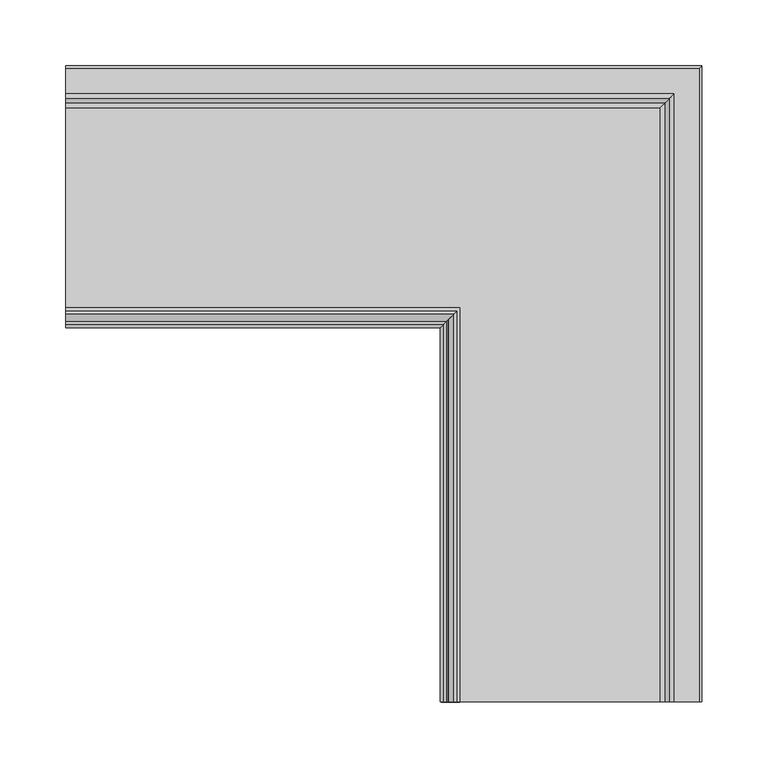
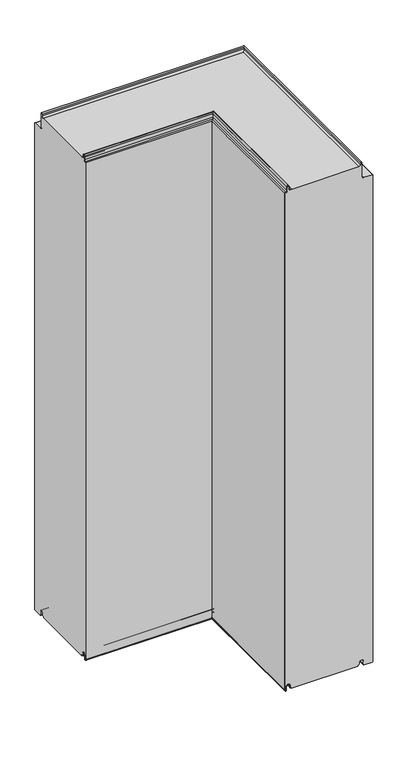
"""IFC4 building model written with IfcOpenShell, lengths in millimetres: plate geometry, Угловой модуль Fronttop : Угловой модуль Fronttop 200/1190."""

from ifc_helpers import new_model, si_unit, frame, origin, place, context, project, spatial, polyline, circle_curve, ellipse_curve, source, transform, mapped, element, save
from ifc_brep_helpers import plane_surface, cylinder_surface, revolved_surface, advanced_brep


def plate_2d9094d1(model_context):
    return source(origin(), model_context, "Body", "AdvancedBrep", [
        advanced_brep(
        [(-234.5, 15.0, 3.0), (-234.5, 13.0, 3.0), (-234.5, 12.0, 4.0), (-234.5, 12.0, 8.0), (-234.5, 3.0, 8.0), (-234.5, 3.0, -0.5), (-234.5, 1.0, -0.5), (-234.5, 1.0, 1185.0278643), (-234.5, 2.1111111, 1186.0216723), (-234.5, 6.0, 1189.5), (-234.5, 6.0, 1198.0), (-234.5, 9.0, 1198.0), (-234.5, 9.0, 1194.0), (-234.5, 13.0, 1190.0), (-234.5, 167.0, 1190.0), (-234.5, 171.0, 1194.0), (-234.5, 171.0, 1198.0), (-234.5, 174.0, 1198.0), (-234.5, 174.0, 1165.0), (-234.5, 178.0, 1161.0), (-234.5, 197.0, 1161.0), (-234.5, 199.0, 1159.0), (-234.5, 199.0, 0.0), (-234.5, 197.0, -2.0), (-234.5, 179.0, -2.0), (-234.5, 177.0, 0.0), (-234.5, 177.0, 8.0), (-234.5, 168.0, 8.0), (-234.5, 168.0, 4.0), (-234.5, 167.0, 3.0), (-234.5, 165.0, 3.0), (-234.5, 165.0, 0.0), (-234.5, 15.0, 0.0), (65.0, 15.0, 0.0), (65.0, 15.0, 3.0), (215.0, 165.0, 0.0), (215.0, -284.5, 0.0), (65.0, -284.5, 0.0), (215.0, 165.0, 3.0), (217.0, 167.0, 3.0), (217.0, -284.5, 3.0), (215.0, -284.5, 3.0), (218.0, 168.0, 4.0), (218.0, 168.0, 8.0), (227.0, 177.0, 8.0), (227.0, 177.0, 0.0), (229.0, 179.0, -2.0), (247.0, 197.0, -2.0), (247.0, -284.5, -2.0), (229.0, -284.5, -2.0), (249.0, 199.0, 0.0), (249.0, 199.0, 1159.0), (247.0, 197.0, 1161.0), (228.0, 178.0, 1161.0), (228.0, -284.5, 1161.0), (247.0, -284.5, 1161.0), (224.0, 174.0, 1165.0), (224.0, 174.0, 1198.0), (221.0, 171.0, 1198.0), (221.0, 171.0, 1194.0), (217.0, 167.0, 1190.0), (63.0, 13.0, 1190.0), (63.0, -284.5, 1190.0), (217.0, -284.5, 1190.0), (59.0, 9.0, 1194.0), (59.0, 9.0, 1198.0), (56.0, 6.0, 1198.0), (56.0, 6.0, 1189.5), (52.1111111, 2.1111111, 1186.021672), (51.0, 1.0, 1185.0278643), (51.0, 1.0, -0.5), (53.0, 3.0, -0.5), (53.0, 3.0, 8.0), (62.0, 12.0, 8.0), (62.0, 12.0, 4.0), (63.0, 13.0, 3.0), (65.0, -284.5, 3.0), (63.0, -284.5, 3.0), (218.0, -284.5, 4.0), (218.0, -284.5, 8.0), (227.0, -284.5, 8.0), (227.0, -284.5, 0.0), (249.0, -284.5, 0.0), (249.0, -284.5, 1159.0), (224.0, -284.5, 1165.0), (224.0, -284.5, 1198.0), (221.0, -284.5, 1198.0), (221.0, -284.5, 1194.0), (59.0, -284.5, 1194.0), (59.0, -284.5, 1198.0), (56.0, -284.5, 1198.0), (56.0, -284.5, 1189.5), (52.1111111, -284.5, 1186.021672), (51.0, -284.5, 1185.0278643), (51.0, -284.5, -0.5), (53.0, -284.5, -0.5), (53.0, -284.5, 8.0), (62.0, -284.5, 8.0), (62.0, -284.5, 4.0)],
        [
            (0, 1),
            (1, 2, circle_curve(frame((-234.5, 13.0, 4.0), z_axis=(-1.0, 0.0, 0.0), x_axis=(0.0, -1.0, 0.0)), 1.0)),
            (2, 3),
            (3, 4, circle_curve(frame((-234.5, 7.5, 8.0), z_axis=(1.0, 0.0, 0.0), x_axis=(0.0, -1.0, 0.0)), 4.5)),
            (4, 5),
            (5, 6, circle_curve(frame((-234.5, 2.0, -0.5), z_axis=(-1.0, 0.0, 0.0), x_axis=(0.0, -1.0, 0.0)), 1.0)),
            (6, 7),
            (7, 8, circle_curve(frame((-234.5, 2.0, 1185.0278643), z_axis=(-1.0, 0.0, 0.0), x_axis=(0.0, -1.0, 0.0)), 1.0)),
            (8, 9, circle_curve(frame((-234.5, 2.5, 1189.5), z_axis=(1.0, 0.0, 0.0), x_axis=(0.0, -1.0, 0.0)), 3.5)),
            (9, 10),
            (10, 11, circle_curve(frame((-234.5, 7.5, 1198.0), z_axis=(-1.0, 0.0, 0.0), x_axis=(0.0, -1.0, 0.0)), 1.5)),
            (11, 12),
            (12, 13, circle_curve(frame((-234.5, 13.0, 1194.0), z_axis=(1.0, 0.0, 0.0), x_axis=(0.0, -1.0, 0.0)), 4.0)),
            (13, 14),
            (14, 15, circle_curve(frame((-234.5, 167.0, 1194.0), z_axis=(1.0, 0.0, 0.0), x_axis=(0.0, -1.0, 0.0)), 4.0)),
            (15, 16),
            (16, 17, circle_curve(frame((-234.5, 172.5, 1198.0), z_axis=(-1.0, 0.0, 0.0), x_axis=(0.0, -1.0, 0.0)), 1.5)),
            (17, 18),
            (18, 19, circle_curve(frame((-234.5, 178.0, 1165.0), z_axis=(1.0, 0.0, 0.0), x_axis=(0.0, -1.0, 0.0)), 4.0)),
            (19, 20),
            (20, 21, circle_curve(frame((-234.5, 197.0, 1159.0), z_axis=(-1.0, 0.0, 0.0), x_axis=(0.0, -1.0, 0.0)), 2.0)),
            (21, 22),
            (22, 23, circle_curve(frame((-234.5, 197.0, 0.0), z_axis=(-1.0, 0.0, 0.0), x_axis=(0.0, -1.0, 0.0)), 2.0)),
            (23, 24),
            (24, 25, circle_curve(frame((-234.5, 179.0, 0.0), z_axis=(-1.0, 0.0, 0.0), x_axis=(0.0, -1.0, 0.0)), 2.0)),
            (25, 26),
            (26, 27, circle_curve(frame((-234.5, 172.5, 8.0), z_axis=(1.0, 0.0, 0.0), x_axis=(0.0, -1.0, 0.0)), 4.5)),
            (27, 28),
            (28, 29, circle_curve(frame((-234.5, 167.0, 4.0), z_axis=(-1.0, 0.0, 0.0), x_axis=(0.0, -1.0, 0.0)), 1.0)),
            (29, 30),
            (30, 31),
            (31, 32),
            (32, 0),
            (32, 33),
            (33, 34),
            (34, 0),
            (31, 35),
            (35, 36),
            (36, 37),
            (37, 33),
            (30, 38),
            (38, 35),
            (29, 39),
            (39, 40),
            (40, 41),
            (41, 38),
            (28, 42),
            (42, 39, ellipse_curve(frame((217.0, 167.0, 4.0), z_axis=(-0.7071067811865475, 0.7071067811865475, 0.0), x_axis=(-0.7071067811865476, -0.7071067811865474, 0.0)), 1.4142136, 1.0)),
            (27, 43),
            (43, 42),
            (26, 44),
            (44, 43, ellipse_curve(frame((222.5, 172.5, 8.0), z_axis=(0.7071067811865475, -0.7071067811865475, 0.0), x_axis=(0.7071067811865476, 0.7071067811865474, 0.0)), 6.363961, 4.5)),
            (25, 45),
            (45, 44),
            (24, 46),
            (46, 45, ellipse_curve(frame((229.0, 179.0, 0.0), z_axis=(-0.7071067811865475, 0.7071067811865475, 0.0), x_axis=(-0.7071067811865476, -0.7071067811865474, 0.0)), 2.8284271, 2.0)),
            (23, 47),
            (47, 48),
            (48, 49),
            (49, 46),
            (22, 50),
            (50, 47, ellipse_curve(frame((247.0, 197.0, 0.0), z_axis=(-0.7071067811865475, 0.7071067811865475, 0.0), x_axis=(-0.7071067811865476, -0.7071067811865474, 0.0)), 2.8284271, 2.0)),
            (21, 51),
            (51, 50),
            (20, 52),
            (52, 51, ellipse_curve(frame((247.0, 197.0, 1159.0), z_axis=(-0.7071067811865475, 0.7071067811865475, 0.0), x_axis=(-0.7071067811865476, -0.7071067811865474, 0.0)), 2.8284271, 2.0)),
            (19, 53),
            (53, 54),
            (54, 55),
            (55, 52),
            (18, 56),
            (56, 53, ellipse_curve(frame((228.0, 178.0, 1165.0), z_axis=(0.7071067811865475, -0.7071067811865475, 0.0), x_axis=(0.7071067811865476, 0.7071067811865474, 0.0)), 5.6568542, 4.0)),
            (17, 57),
            (57, 56),
            (16, 58),
            (58, 57, ellipse_curve(frame((222.5, 172.5, 1198.0), z_axis=(-0.7071067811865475, 0.7071067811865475, 0.0), x_axis=(-0.7071067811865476, -0.7071067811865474, 0.0)), 2.1213203, 1.5)),
            (15, 59),
            (59, 58),
            (14, 60),
            (60, 59, ellipse_curve(frame((217.0, 167.0, 1194.0), z_axis=(0.7071067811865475, -0.7071067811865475, 0.0), x_axis=(0.7071067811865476, 0.7071067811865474, 0.0)), 5.6568542, 4.0)),
            (13, 61),
            (61, 62),
            (62, 63),
            (63, 60),
            (12, 64),
            (64, 61, ellipse_curve(frame((63.0, 13.0, 1194.0), z_axis=(0.7071067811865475, -0.7071067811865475, 0.0), x_axis=(0.7071067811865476, 0.7071067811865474, 0.0)), 5.6568542, 4.0)),
            (11, 65),
            (65, 64),
            (10, 66),
            (66, 65, ellipse_curve(frame((57.5, 7.5, 1198.0), z_axis=(-0.7071067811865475, 0.7071067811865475, 0.0), x_axis=(-0.7071067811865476, -0.7071067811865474, 0.0)), 2.1213204, 1.5)),
            (9, 67),
            (67, 66),
            (8, 68),
            (68, 67, ellipse_curve(frame((52.5, 2.5, 1189.5), z_axis=(0.7071067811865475, -0.7071067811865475, 0.0), x_axis=(0.7071067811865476, 0.7071067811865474, 0.0)), 4.9497475, 3.5)),
            (7, 69),
            (69, 68, ellipse_curve(frame((52.0, 2.0, 1185.0278643), z_axis=(-0.7071067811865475, 0.7071067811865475, 0.0), x_axis=(-0.7071067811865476, -0.7071067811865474, 0.0)), 1.4142136, 1.0)),
            (6, 70),
            (70, 69),
            (5, 71),
            (71, 70, ellipse_curve(frame((52.0, 2.0, -0.5), z_axis=(-0.7071067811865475, 0.7071067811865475, 0.0), x_axis=(-0.7071067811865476, -0.7071067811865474, 0.0)), 1.4142136, 1.0)),
            (4, 72),
            (72, 71),
            (3, 73),
            (73, 72, ellipse_curve(frame((57.5, 7.5, 8.0), z_axis=(0.7071067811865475, -0.7071067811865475, 0.0), x_axis=(0.7071067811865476, 0.7071067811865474, 0.0)), 6.363961, 4.5)),
            (2, 74),
            (74, 73),
            (1, 75),
            (75, 74, ellipse_curve(frame((63.0, 13.0, 4.0), z_axis=(-0.7071067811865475, 0.7071067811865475, 0.0), x_axis=(-0.7071067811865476, -0.7071067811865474, 0.0)), 1.4142136, 1.0)),
            (34, 76),
            (76, 77),
            (77, 75),
            (76, 37),
            (36, 41),
            (40, 78, circle_curve(frame((217.0, -284.5, 4.0), z_axis=(0.0, -1.0, 0.0), x_axis=(-1.0, 0.0, 0.0)), 1.0)),
            (78, 79),
            (79, 80, circle_curve(frame((222.5, -284.5, 8.0), z_axis=(0.0, 1.0, 0.0), x_axis=(-1.0, 0.0, 0.0)), 4.5)),
            (80, 81),
            (81, 49, circle_curve(frame((229.0, -284.5, 0.0), z_axis=(0.0, -1.0, 0.0), x_axis=(-1.0, 0.0, 0.0)), 2.0)),
            (48, 82, circle_curve(frame((247.0, -284.5, 0.0), z_axis=(0.0, -1.0, 0.0), x_axis=(-1.0, 0.0, 0.0)), 2.0)),
            (82, 83),
            (83, 55, circle_curve(frame((247.0, -284.5, 1159.0), z_axis=(0.0, -1.0, 0.0), x_axis=(-1.0, 0.0, 0.0)), 2.0)),
            (54, 84, circle_curve(frame((228.0, -284.5, 1165.0), z_axis=(0.0, 1.0, 0.0), x_axis=(-1.0, 0.0, 0.0)), 4.0)),
            (84, 85),
            (85, 86, circle_curve(frame((222.5, -284.5, 1198.0), z_axis=(0.0, -1.0, 0.0), x_axis=(-1.0, 0.0, 0.0)), 1.5)),
            (86, 87),
            (87, 63, circle_curve(frame((217.0, -284.5, 1194.0), z_axis=(0.0, 1.0, 0.0), x_axis=(-1.0, 0.0, 0.0)), 4.0)),
            (62, 88, circle_curve(frame((63.0, -284.5, 1194.0), z_axis=(0.0, 1.0, 0.0), x_axis=(-1.0, 0.0, 0.0)), 4.0)),
            (88, 89),
            (89, 90, circle_curve(frame((57.5, -284.5, 1198.0), z_axis=(0.0, -1.0, 0.0), x_axis=(-1.0, 0.0, 0.0)), 1.5)),
            (90, 91),
            (91, 92, circle_curve(frame((52.5, -284.5, 1189.5), z_axis=(0.0, 1.0, 0.0), x_axis=(-1.0, 0.0, 0.0)), 3.5)),
            (92, 93, circle_curve(frame((52.0, -284.5, 1185.0278643), z_axis=(0.0, -1.0, 0.0), x_axis=(-1.0, 0.0, 0.0)), 1.0)),
            (93, 94),
            (94, 95, circle_curve(frame((52.0, -284.5, -0.5), z_axis=(0.0, -1.0, 0.0), x_axis=(-1.0, 0.0, 0.0)), 1.0)),
            (95, 96),
            (96, 97, circle_curve(frame((57.5, -284.5, 8.0), z_axis=(0.0, 1.0, 0.0), x_axis=(-1.0, 0.0, 0.0)), 4.5)),
            (97, 98),
            (98, 77, circle_curve(frame((63.0, -284.5, 4.0), z_axis=(0.0, -1.0, 0.0), x_axis=(-1.0, 0.0, 0.0)), 1.0)),
            (42, 78),
            (43, 79),
            (44, 80),
            (45, 81),
            (50, 82),
            (51, 83),
            (56, 84),
            (57, 85),
            (58, 86),
            (59, 87),
            (64, 88),
            (65, 89),
            (66, 90),
            (67, 91),
            (68, 92),
            (69, 93),
            (70, 94),
            (71, 95),
            (72, 96),
            (73, 97),
            (74, 98),
        ],
        [
            plane_surface(frame((-234.5, 0.0, 0.0), z_axis=(-1.0, 0.0, 0.0), x_axis=(0.0, 0.0, 1.0))),
            plane_surface(frame((-234.5, 15.0, 0.0), z_axis=(0.0, -1.0, 0.0), x_axis=(1.0, 0.0, 0.0))),
            plane_surface(frame((-234.5, 165.0, 0.0), z_axis=(0.0, 0.0, -1.0), x_axis=(1.0, 0.0, 0.0))),
            plane_surface(frame((-234.5, 165.0, 3.0), z_axis=(0.0, 1.0, 0.0), x_axis=(1.0, 0.0, 0.0))),
            plane_surface(frame((-234.5, 167.0, 3.0), z_axis=(0.0, 0.0, -1.0), x_axis=(1.0, 0.0, 0.0))),
            cylinder_surface(frame((-234.5, 167.0, 4.0), z_axis=(-1.0, 0.0, 0.0), x_axis=(0.0, -1.0, 0.0)), 1.0),
            plane_surface(frame((-234.5, 168.0, 8.0), z_axis=(0.0, 1.0, 0.0), x_axis=(1.0, 0.0, 0.0))),
            revolved_surface(polyline([(227.0, 168.0, 8.0), (-234.5, 168.0, 8.0)]), (-234.5, 172.5, 8.0), (1.0, 0.0, 0.0)),
            plane_surface(frame((-234.5, 177.0, 0.0), z_axis=(0.0, -1.0, 0.0), x_axis=(1.0, 0.0, 0.0))),
            cylinder_surface(frame((-234.5, 179.0, 0.0), z_axis=(-1.0, 0.0, 0.0), x_axis=(0.0, -1.0, 0.0)), 2.0),
            plane_surface(frame((-234.5, 197.0, -2.0), z_axis=(0.0, 0.0, -1.0), x_axis=(1.0, 0.0, 0.0))),
            cylinder_surface(frame((-234.5, 197.0, 0.0), z_axis=(-1.0, 0.0, 0.0), x_axis=(0.0, -1.0, 0.0)), 2.0),
            plane_surface(frame((-234.5, 199.0, 1159.0), z_axis=(0.0, 1.0, 0.0), x_axis=(1.0, 0.0, 0.0))),
            cylinder_surface(frame((-234.5, 197.0, 1159.0), z_axis=(-1.0, 0.0, 0.0), x_axis=(0.0, -1.0, 0.0)), 2.0),
            plane_surface(frame((-234.5, 178.0, 1161.0), z_axis=(0.0, 0.0, 1.0), x_axis=(1.0, 0.0, 0.0))),
            revolved_surface(polyline([(231.9999999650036, 174.0, 1165.0), (-234.5, 174.0, 1165.0)]), (-234.5, 178.0, 1165.0), (1.0, 0.0, 0.0)),
            plane_surface(frame((-234.5, 174.0, 1198.0), z_axis=(0.0, 1.0, 0.0), x_axis=(1.0, 0.0, 0.0))),
            cylinder_surface(frame((-234.5, 172.5, 1198.0), z_axis=(-1.0, 0.0, 0.0), x_axis=(0.0, -1.0, 0.0)), 1.5),
            plane_surface(frame((-234.5, 171.0, 1194.0), z_axis=(0.0, -1.0, 0.0), x_axis=(1.0, 0.0, 0.0))),
            revolved_surface(polyline([(221.0, 163.0, 1194.0), (-234.5, 163.0, 1194.0)]), (-234.5, 167.0, 1194.0), (1.0, 0.0, 0.0)),
            plane_surface(frame((-234.5, 13.0, 1190.0), z_axis=(0.0, 0.0, 1.0), x_axis=(1.0, 0.0, 0.0))),
            revolved_surface(polyline([(66.99999996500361, 9.0, 1194.0), (-234.5, 9.0, 1194.0)]), (-234.5, 13.0, 1194.0), (1.0, 0.0, 0.0)),
            plane_surface(frame((-234.5, 9.0, 1198.0), z_axis=(0.0, 1.0, 0.0), x_axis=(1.0, 0.0, 0.0))),
            cylinder_surface(frame((-234.5, 7.5, 1198.0), z_axis=(-1.0, 0.0, 0.0), x_axis=(0.0, -1.0, 0.0)), 1.5),
            plane_surface(frame((-234.5, 6.0, 1189.5), z_axis=(0.0, -1.0, 0.0), x_axis=(1.0, 0.0, 0.0))),
            revolved_surface(polyline([(56.00000002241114, -1.0, 1189.5), (-234.5, -1.0, 1189.5)]), (-234.5, 2.5, 1189.5), (1.0, 0.0, 0.0)),
            cylinder_surface(frame((-234.5, 2.0, 1185.0278643), z_axis=(-1.0, 0.0, 0.0), x_axis=(0.0, -1.0, 0.0)), 1.0),
            plane_surface(frame((-234.5, 1.0, -0.5), z_axis=(0.0, -1.0, 0.0), x_axis=(1.0, 0.0, 0.0))),
            cylinder_surface(frame((-234.5, 2.0, -0.5), z_axis=(-1.0, 0.0, 0.0), x_axis=(0.0, -1.0, 0.0)), 1.0),
            plane_surface(frame((-234.5, 3.0, 8.0), z_axis=(0.0, 1.0, 0.0), x_axis=(1.0, 0.0, 0.0))),
            revolved_surface(polyline([(62.0, 3.0, 8.0), (-234.5, 3.0, 8.0)]), (-234.5, 7.5, 8.0), (1.0, 0.0, 0.0)),
            plane_surface(frame((-234.5, 12.0, 4.0), z_axis=(0.0, -1.0, 0.0), x_axis=(1.0, 0.0, 0.0))),
            cylinder_surface(frame((-234.5, 13.0, 4.0), z_axis=(-1.0, 0.0, 0.0), x_axis=(0.0, -1.0, 0.0)), 1.0),
            plane_surface(frame((-234.5, 15.0, 3.0), z_axis=(0.0, 0.0, -1.0), x_axis=(1.0, 0.0, 0.0))),
            plane_surface(frame((50.0, -284.5, 0.0), z_axis=(0.0, -1.0, 0.0), x_axis=(0.0, 0.0, 1.0))),
            plane_surface(frame((65.0, 15.0, 0.0), z_axis=(-1.0, 0.0, 0.0), x_axis=(0.0, -1.0, 0.0))),
            plane_surface(frame((215.0, 165.0, 3.0), z_axis=(1.0, 0.0, 0.0), x_axis=(0.0, -1.0, 0.0))),
            cylinder_surface(frame((217.0, 0.0, 4.0), z_axis=(0.0, 1.0, 0.0), x_axis=(-1.0, 0.0, 0.0)), 1.0),
            plane_surface(frame((218.0, 168.0, 8.0), z_axis=(1.0, 0.0, 0.0), x_axis=(0.0, -1.0, 0.0))),
            revolved_surface(polyline([(218.0, -284.5, 8.0), (218.0, 177.0, 8.0)]), (222.5, 0.0, 8.0), (0.0, -1.0, 0.0)),
            plane_surface(frame((227.0, 177.0, 0.0), z_axis=(-1.0, 0.0, 0.0), x_axis=(0.0, -1.0, 0.0))),
            cylinder_surface(frame((229.0, 0.0, 0.0), z_axis=(0.0, 1.0, 0.0), x_axis=(-1.0, 0.0, 0.0)), 2.0),
            cylinder_surface(frame((247.0, 0.0, 0.0), z_axis=(0.0, 1.0, 0.0), x_axis=(-1.0, 0.0, 0.0)), 2.0),
            plane_surface(frame((249.0, 199.0, 1159.0), z_axis=(1.0, 0.0, 0.0), x_axis=(0.0, -1.0, 0.0))),
            cylinder_surface(frame((247.0, 0.0, 1159.0), z_axis=(0.0, 1.0, 0.0), x_axis=(-1.0, 0.0, 0.0)), 2.0),
            revolved_surface(polyline([(224.0, -284.5, 1165.0), (224.0, 181.9999999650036, 1165.0)]), (228.0, 0.0, 1165.0), (0.0, -1.0, 0.0)),
            plane_surface(frame((224.0, 174.0, 1198.0), z_axis=(1.0, 0.0, 0.0), x_axis=(0.0, -1.0, 0.0))),
            cylinder_surface(frame((222.5, 0.0, 1198.0), z_axis=(0.0, 1.0, 0.0), x_axis=(-1.0, 0.0, 0.0)), 1.5),
            plane_surface(frame((221.0, 171.0, 1194.0), z_axis=(-1.0, 0.0, 0.0), x_axis=(0.0, -1.0, 0.0))),
            revolved_surface(polyline([(213.0, -284.5, 1194.0), (213.0, 171.0, 1194.0)]), (217.0, 0.0, 1194.0), (0.0, -1.0, 0.0)),
            revolved_surface(polyline([(59.0, -284.5, 1194.0), (59.0, 16.999999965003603, 1194.0)]), (63.0, 0.0, 1194.0), (0.0, -1.0, 0.0)),
            plane_surface(frame((59.0, 9.0, 1198.0), z_axis=(1.0, 0.0, 0.0), x_axis=(0.0, -1.0, 0.0))),
            cylinder_surface(frame((57.5, 0.0, 1198.0), z_axis=(0.0, 1.0, 0.0), x_axis=(-1.0, 0.0, 0.0)), 1.5),
            plane_surface(frame((56.0, 6.0, 1189.5), z_axis=(-1.0, 0.0, 0.0), x_axis=(0.0, -1.0, 0.0))),
            revolved_surface(polyline([(49.0, -284.5, 1189.5), (49.0, 6.000000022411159, 1189.5)]), (52.5, 0.0, 1189.5), (0.0, -1.0, 0.0)),
            cylinder_surface(frame((52.0, 0.0, 1185.0278643), z_axis=(0.0, 1.0, 0.0), x_axis=(-1.0, 0.0, 0.0)), 1.0),
            plane_surface(frame((51.0, 1.0, -0.5), z_axis=(-1.0, 0.0, 0.0), x_axis=(0.0, -1.0, 0.0))),
            cylinder_surface(frame((52.0, 0.0, -0.5), z_axis=(0.0, 1.0, 0.0), x_axis=(-1.0, 0.0, 0.0)), 1.0),
            plane_surface(frame((53.0, 3.0, 8.0), z_axis=(1.0, 0.0, 0.0), x_axis=(0.0, -1.0, 0.0))),
            revolved_surface(polyline([(53.0, -284.5, 8.0), (53.0, 12.0, 8.0)]), (57.5, 0.0, 8.0), (0.0, -1.0, 0.0)),
            plane_surface(frame((62.0, 12.0, 4.0), z_axis=(-1.0, 0.0, 0.0), x_axis=(0.0, -1.0, 0.0))),
            cylinder_surface(frame((63.0, 0.0, 4.0), z_axis=(0.0, 1.0, 0.0), x_axis=(-1.0, 0.0, 0.0)), 1.0),
        ],
        [
            (0, [[1, 2, 3, 4, 5, 6, 7, 8, 9, 10, 11, 12, 13, 14, 15, 16, 17, 18, 19, 20, 21, 22, 23, 24, 25, 26, 27, 28, 29, 30, 31, 32, 33]]),
            (1, [[-33, 34, 35, 36]]),
            (2, [[-32, 37, 38, 39, 40, -34]]),
            (3, [[-31, 41, 42, -37]]),
            (4, [[-30, 43, 44, 45, 46, -41]]),
            (5, [[-29, 47, 48, -43]]),
            (6, [[-28, 49, 50, -47]]),
            (7, [[-27, 51, 52, -49]]),
            (8, [[-26, 53, 54, -51]]),
            (9, [[-25, 55, 56, -53]]),
            (10, [[-24, 57, 58, 59, 60, -55]]),
            (11, [[-23, 61, 62, -57]]),
            (12, [[-22, 63, 64, -61]]),
            (13, [[-21, 65, 66, -63]]),
            (14, [[-20, 67, 68, 69, 70, -65]]),
            (15, [[-19, 71, 72, -67]]),
            (16, [[-18, 73, 74, -71]]),
            (17, [[-17, 75, 76, -73]]),
            (18, [[-16, 77, 78, -75]]),
            (19, [[-15, 79, 80, -77]]),
            (20, [[-14, 81, 82, 83, 84, -79]]),
            (21, [[-13, 85, 86, -81]]),
            (22, [[-12, 87, 88, -85]]),
            (23, [[-11, 89, 90, -87]]),
            (24, [[-10, 91, 92, -89]]),
            (25, [[-9, 93, 94, -91]]),
            (26, [[-8, 95, 96, -93]]),
            (27, [[-7, 97, 98, -95]]),
            (28, [[-6, 99, 100, -97]]),
            (29, [[-5, 101, 102, -99]]),
            (30, [[-4, 103, 104, -101]]),
            (31, [[-3, 105, 106, -103]]),
            (32, [[-2, 107, 108, -105]]),
            (33, [[-1, -36, 109, 110, 111, -107]]),
            (34, [[112, -39, 113, -45, 114, 115, 116, 117, 118, -59, 119, 120, 121, -69, 122, 123, 124, 125, 126, -83, 127, 128, 129, 130, 131, 132, 133, 134, 135, 136, 137, 138, -110]]),
            (35, [[-35, -40, -112, -109]]),
            (36, [[-42, -46, -113, -38]]),
            (37, [[-48, 139, -114, -44]]),
            (38, [[-50, 140, -115, -139]]),
            (39, [[-52, 141, -116, -140]]),
            (40, [[-54, 142, -117, -141]]),
            (41, [[-56, -60, -118, -142]]),
            (42, [[-62, 143, -119, -58]]),
            (43, [[-64, 144, -120, -143]]),
            (44, [[-66, -70, -121, -144]]),
            (45, [[-72, 145, -122, -68]]),
            (46, [[-74, 146, -123, -145]]),
            (47, [[-76, 147, -124, -146]]),
            (48, [[-78, 148, -125, -147]]),
            (49, [[-80, -84, -126, -148]]),
            (50, [[-86, 149, -127, -82]]),
            (51, [[-88, 150, -128, -149]]),
            (52, [[-90, 151, -129, -150]]),
            (53, [[-92, 152, -130, -151]]),
            (54, [[-94, 153, -131, -152]]),
            (55, [[-96, 154, -132, -153]]),
            (56, [[-98, 155, -133, -154]]),
            (57, [[-100, 156, -134, -155]]),
            (58, [[-102, 157, -135, -156]]),
            (59, [[-104, 158, -136, -157]]),
            (60, [[-106, 159, -137, -158]]),
            (61, [[-108, -111, -138, -159]]),
        ],
    ),
        advanced_brep(
        [(-234.5, 13.0, 1191.0), (-234.5, 15.0, 1191.0), (-234.5, 15.0, 1190.0), (-234.5, 13.0, 1190.0), (-234.5, 9.0, 1194.0), (-234.5, 9.0, 1198.0), (-234.5, 6.0, 1198.0), (-234.5, 6.0, 1189.5), (-234.5, 2.1134897, 1186.0214069), (-234.5, 1.0, 1185.0), (-234.5, 1.0, -0.5), (-234.5, 3.0, -0.5), (-234.5, 3.0, 8.0), (-234.5, 12.0, 8.0), (-234.5, 12.0, 4.0), (-234.5, 13.0, 3.0), (-234.5, 15.0, 3.0), (-234.5, 15.0, 2.0), (-234.5, 13.0, 2.0), (-234.5, 11.0, 4.0), (-234.5, 11.0, 8.0), (-234.5, 4.0, 8.0), (-234.5, 4.0, -0.5), (-234.5, 0.0, -0.5), (-234.5, 0.0, 1185.0), (-234.5, 2.220863, 1186.9877675), (-234.5, 5.0, 1189.5), (-234.5, 5.0, 1198.0), (-234.5, 10.0, 1198.0), (-234.5, 10.0, 1194.0), (63.0, 13.0, 1191.0), (63.0, -284.5, 1191.0), (65.0, -284.5, 1191.0), (65.0, 15.0, 1191.0), (65.0, 15.0, 1190.0), (65.0, -284.5, 1190.0), (63.0, -284.5, 1190.0), (63.0, 13.0, 1190.0), (59.0, 9.0, 1194.0), (59.0, 9.0, 1198.0), (56.0, 6.0, 1198.0), (56.0, 6.0, 1189.5), (52.1134897, 2.1134897, 1186.0214069), (51.0, 1.0, 1185.0), (51.0, 1.0, -0.5), (53.0, 3.0, -0.5), (53.0, 3.0, 8.0), (62.0, 12.0, 8.0), (62.0, 12.0, 4.0), (63.0, 13.0, 3.0), (63.0, -284.5, 3.0), (65.0, -284.5, 3.0), (65.0, 15.0, 3.0), (65.0, 15.0, 2.0), (65.0, -284.5, 2.0), (63.0, -284.5, 2.0), (63.0, 13.0, 2.0), (61.0, 11.0, 4.0), (61.0, 11.0, 8.0), (54.0, 4.0, 8.0), (54.0, 4.0, -0.5), (50.0, 0.0, -0.5), (50.0, 0.0, 1185.0), (52.220863, 2.220863, 1186.9877675), (55.0, 5.0, 1189.5), (55.0, 5.0, 1198.0), (60.0, 10.0, 1198.0), (60.0, 10.0, 1194.0), (60.0, -284.5, 1194.0), (60.0, -284.5, 1198.0), (55.0, -284.5, 1198.0), (55.0, -284.5, 1189.5), (52.2239212, -284.5, 1187.0152907), (50.0, -284.5, 1185.0), (50.0, -284.5, -0.5), (54.0, -284.5, -0.5), (54.0, -284.5, 8.0), (61.0, -284.5, 8.0), (61.0, -284.5, 4.0), (62.0, -284.5, 4.0), (62.0, -284.5, 8.0), (53.0, -284.5, 8.0), (53.0, -284.5, -0.5), (51.0, -284.5, -0.5), (51.0, -284.5, 1185.0), (52.1104315, -284.5, 1185.9938837), (56.0, -284.5, 1189.5), (56.0, -284.5, 1198.0), (59.0, -284.5, 1198.0), (59.0, -284.5, 1194.0)],
        [
            (0, 1),
            (1, 2),
            (2, 3),
            (3, 4, circle_curve(frame((-234.5, 13.0, 1194.0), z_axis=(-1.0, 0.0, 0.0), x_axis=(0.0, -1.0, 0.0)), 4.0)),
            (4, 5),
            (5, 6, circle_curve(frame((-234.5, 7.5, 1198.0), z_axis=(1.0, 0.0, 0.0), x_axis=(0.0, -1.0, 0.0)), 1.5)),
            (6, 7),
            (7, 8, circle_curve(frame((-234.5, 2.5, 1189.5), z_axis=(-1.0, 0.0, 0.0), x_axis=(0.0, -1.0, 0.0)), 3.5)),
            (8, 9, circle_curve(frame((-234.5, 2.0, 1185.0), z_axis=(1.0, 0.0, 0.0), x_axis=(0.0, -1.0, 0.0)), 1.0)),
            (9, 10),
            (10, 11, circle_curve(frame((-234.5, 2.0, -0.5), z_axis=(1.0, 0.0, 0.0), x_axis=(0.0, -1.0, 0.0)), 1.0)),
            (11, 12),
            (12, 13, circle_curve(frame((-234.5, 7.5, 8.0), z_axis=(-1.0, 0.0, 0.0), x_axis=(0.0, -1.0, 0.0)), 4.5)),
            (13, 14),
            (14, 15, circle_curve(frame((-234.5, 13.0, 4.0), z_axis=(1.0, 0.0, 0.0), x_axis=(0.0, -1.0, 0.0)), 1.0)),
            (15, 16),
            (16, 17),
            (17, 18),
            (18, 19, circle_curve(frame((-234.5, 13.0, 4.0), z_axis=(-1.0, 0.0, 0.0), x_axis=(0.0, -1.0, 0.0)), 2.0)),
            (19, 20),
            (20, 21, circle_curve(frame((-234.5, 7.5, 8.0), z_axis=(1.0, 0.0, 0.0), x_axis=(0.0, -1.0, 0.0)), 3.5)),
            (21, 22),
            (22, 23, circle_curve(frame((-234.5, 2.0, -0.5), z_axis=(-1.0, 0.0, 0.0), x_axis=(0.0, -1.0, 0.0)), 2.0)),
            (23, 24),
            (24, 25, circle_curve(frame((-234.5, 2.0, 1185.0), z_axis=(-1.0, 0.0, 0.0), x_axis=(0.0, -1.0, 0.0)), 2.0)),
            (25, 26, circle_curve(frame((-234.5, 2.5, 1189.5), z_axis=(1.0, 0.0, 0.0), x_axis=(0.0, -1.0, 0.0)), 2.5)),
            (26, 27),
            (27, 28, circle_curve(frame((-234.5, 7.5, 1198.0), z_axis=(-1.0, 0.0, 0.0), x_axis=(0.0, -1.0, 0.0)), 2.5)),
            (28, 29),
            (29, 0, circle_curve(frame((-234.5, 13.0, 1194.0), z_axis=(1.0, 0.0, 0.0), x_axis=(0.0, -1.0, 0.0)), 3.0)),
            (0, 30),
            (30, 31),
            (31, 32),
            (32, 33),
            (33, 1),
            (33, 34),
            (34, 2),
            (34, 35),
            (35, 36),
            (36, 37),
            (37, 3),
            (37, 38, ellipse_curve(frame((63.0, 13.0, 1194.0), z_axis=(-0.7071067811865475, 0.7071067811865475, 0.0), x_axis=(-0.7071067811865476, -0.7071067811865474, 0.0)), 5.6568542, 4.0)),
            (38, 4),
            (38, 39),
            (39, 5),
            (39, 40, ellipse_curve(frame((57.5, 7.5, 1198.0), z_axis=(0.7071067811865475, -0.7071067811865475, 0.0), x_axis=(0.7071067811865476, 0.7071067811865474, 0.0)), 2.1213204, 1.5)),
            (40, 6),
            (40, 41),
            (41, 7),
            (41, 42, ellipse_curve(frame((52.5, 2.5, 1189.5), z_axis=(-0.7071067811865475, 0.7071067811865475, 0.0), x_axis=(-0.7071067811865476, -0.7071067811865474, 0.0)), 4.9497475, 3.5)),
            (42, 8),
            (42, 43, ellipse_curve(frame((52.0, 2.0, 1185.0), z_axis=(0.7071067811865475, -0.7071067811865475, 0.0), x_axis=(0.7071067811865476, 0.7071067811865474, 0.0)), 1.4142136, 1.0)),
            (43, 9),
            (43, 44),
            (44, 10),
            (44, 45, ellipse_curve(frame((52.0, 2.0, -0.5), z_axis=(0.7071067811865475, -0.7071067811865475, 0.0), x_axis=(0.7071067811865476, 0.7071067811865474, 0.0)), 1.4142136, 1.0)),
            (45, 11),
            (45, 46),
            (46, 12),
            (46, 47, ellipse_curve(frame((57.5, 7.5, 8.0), z_axis=(-0.7071067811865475, 0.7071067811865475, 0.0), x_axis=(-0.7071067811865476, -0.7071067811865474, 0.0)), 6.363961, 4.5)),
            (47, 13),
            (47, 48),
            (48, 14),
            (48, 49, ellipse_curve(frame((63.0, 13.0, 4.0), z_axis=(0.7071067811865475, -0.7071067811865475, 0.0), x_axis=(0.7071067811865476, 0.7071067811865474, 0.0)), 1.4142136, 1.0)),
            (49, 15),
            (49, 50),
            (50, 51),
            (51, 52),
            (52, 16),
            (52, 53),
            (53, 17),
            (53, 54),
            (54, 55),
            (55, 56),
            (56, 18),
            (56, 57, ellipse_curve(frame((63.0, 13.0, 4.0), z_axis=(-0.7071067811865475, 0.7071067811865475, 0.0), x_axis=(-0.7071067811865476, -0.7071067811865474, 0.0)), 2.8284271, 2.0)),
            (57, 19),
            (57, 58),
            (58, 20),
            (58, 59, ellipse_curve(frame((57.5, 7.5, 8.0), z_axis=(0.7071067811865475, -0.7071067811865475, 0.0), x_axis=(0.7071067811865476, 0.7071067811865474, 0.0)), 4.9497475, 3.5)),
            (59, 21),
            (59, 60),
            (60, 22),
            (60, 61, ellipse_curve(frame((52.0, 2.0, -0.5), z_axis=(-0.7071067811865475, 0.7071067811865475, 0.0), x_axis=(-0.7071067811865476, -0.7071067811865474, 0.0)), 2.8284271, 2.0)),
            (61, 23),
            (61, 62),
            (62, 24),
            (62, 63, ellipse_curve(frame((52.0, 2.0, 1185.0), z_axis=(-0.7071067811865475, 0.7071067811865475, 0.0), x_axis=(-0.7071067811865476, -0.7071067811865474, 0.0)), 2.8284271, 2.0)),
            (63, 25),
            (63, 64, ellipse_curve(frame((52.5, 2.5, 1189.5), z_axis=(0.7071067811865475, -0.7071067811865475, 0.0), x_axis=(0.7071067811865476, 0.7071067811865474, 0.0)), 3.5355339, 2.5)),
            (64, 26),
            (64, 65),
            (65, 27),
            (65, 66, ellipse_curve(frame((57.5, 7.5, 1198.0), z_axis=(-0.7071067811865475, 0.7071067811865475, 0.0), x_axis=(-0.7071067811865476, -0.7071067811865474, 0.0)), 3.5355339, 2.5)),
            (66, 28),
            (66, 67),
            (67, 29),
            (67, 30, ellipse_curve(frame((63.0, 13.0, 1194.0), z_axis=(0.7071067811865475, -0.7071067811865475, 0.0), x_axis=(0.7071067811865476, 0.7071067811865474, 0.0)), 4.2426407, 3.0)),
            (31, 68, circle_curve(frame((63.0, -284.5, 1194.0), z_axis=(0.0, 1.0, 0.0), x_axis=(-1.0, 0.0, 0.0)), 3.0)),
            (68, 69),
            (69, 70, circle_curve(frame((57.5, -284.5, 1198.0), z_axis=(0.0, -1.0, 0.0), x_axis=(-1.0, 0.0, 0.0)), 2.5)),
            (70, 71),
            (71, 72, circle_curve(frame((52.5, -284.5, 1189.5), z_axis=(0.0, 1.0, 0.0), x_axis=(-1.0, 0.0, 0.0)), 2.5)),
            (72, 73, circle_curve(frame((52.0, -284.5, 1185.0), z_axis=(0.0, -1.0, 0.0), x_axis=(-1.0, 0.0, 0.0)), 2.0)),
            (73, 74),
            (74, 75, circle_curve(frame((52.0, -284.5, -0.5), z_axis=(0.0, -1.0, 0.0), x_axis=(-1.0, 0.0, 0.0)), 2.0)),
            (75, 76),
            (76, 77, circle_curve(frame((57.5, -284.5, 8.0), z_axis=(0.0, 1.0, 0.0), x_axis=(-1.0, 0.0, 0.0)), 3.5)),
            (77, 78),
            (78, 55, circle_curve(frame((63.0, -284.5, 4.0), z_axis=(0.0, -1.0, 0.0), x_axis=(-1.0, 0.0, 0.0)), 2.0)),
            (54, 51),
            (50, 79, circle_curve(frame((63.0, -284.5, 4.0), z_axis=(0.0, 1.0, 0.0), x_axis=(-1.0, 0.0, 0.0)), 1.0)),
            (79, 80),
            (80, 81, circle_curve(frame((57.5, -284.5, 8.0), z_axis=(0.0, -1.0, 0.0), x_axis=(-1.0, 0.0, 0.0)), 4.5)),
            (81, 82),
            (82, 83, circle_curve(frame((52.0, -284.5, -0.5), z_axis=(0.0, 1.0, 0.0), x_axis=(-1.0, 0.0, 0.0)), 1.0)),
            (83, 84),
            (84, 85, circle_curve(frame((52.0, -284.5, 1185.0), z_axis=(0.0, 1.0, 0.0), x_axis=(-1.0, 0.0, 0.0)), 1.0)),
            (85, 86, circle_curve(frame((52.5, -284.5, 1189.5), z_axis=(0.0, -1.0, 0.0), x_axis=(-1.0, 0.0, 0.0)), 3.5)),
            (86, 87),
            (87, 88, circle_curve(frame((57.5, -284.5, 1198.0), z_axis=(0.0, 1.0, 0.0), x_axis=(-1.0, 0.0, 0.0)), 1.5)),
            (88, 89),
            (89, 36, circle_curve(frame((63.0, -284.5, 1194.0), z_axis=(0.0, -1.0, 0.0), x_axis=(-1.0, 0.0, 0.0)), 4.0)),
            (35, 32),
            (89, 38),
            (88, 39),
            (87, 40),
            (86, 41),
            (85, 42),
            (84, 43),
            (83, 44),
            (82, 45),
            (81, 46),
            (80, 47),
            (79, 48),
            (78, 57),
            (77, 58),
            (76, 59),
            (75, 60),
            (74, 61),
            (73, 62),
            (72, 63),
            (71, 64),
            (70, 65),
            (69, 66),
            (68, 67),
        ],
        [
            plane_surface(frame((-234.5, 0.0, 0.0), z_axis=(-1.0, 0.0, 0.0), x_axis=(0.0, 0.0, 1.0))),
            plane_surface(frame((-234.5, 13.0, 1191.0), z_axis=(0.0, 0.0, 1.0), x_axis=(1.0, 0.0, 0.0))),
            plane_surface(frame((-234.5, 15.0, 1191.0), z_axis=(0.0, 1.0, 0.0), x_axis=(1.0, 0.0, 0.0))),
            plane_surface(frame((-234.5, 15.0, 1190.0), z_axis=(0.0, 0.0, -1.0), x_axis=(1.0, 0.0, 0.0))),
            cylinder_surface(frame((-234.5, 13.0, 1194.0), z_axis=(-1.0, 0.0, 0.0), x_axis=(0.0, -1.0, 0.0)), 4.0),
            plane_surface(frame((-234.5, 9.0, 1194.0), z_axis=(0.0, -1.0, 0.0), x_axis=(1.0, 0.0, 0.0))),
            revolved_surface(polyline([(59.00000003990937, 6.0, 1198.0), (-234.5, 6.0, 1198.0)]), (-234.5, 7.5, 1198.0), (1.0, 0.0, 0.0)),
            plane_surface(frame((-234.5, 6.0, 1198.0), z_axis=(0.0, 1.0, 0.0), x_axis=(1.0, 0.0, 0.0))),
            cylinder_surface(frame((-234.5, 2.5, 1189.5), z_axis=(-1.0, 0.0, 0.0), x_axis=(0.0, -1.0, 0.0)), 3.5),
            revolved_surface(polyline([(53.000000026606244, 1.0, 1185.0), (-234.5, 1.0, 1185.0)]), (-234.5, 2.0, 1185.0), (1.0, 0.0, 0.0)),
            plane_surface(frame((-234.5, 1.0, 1185.0), z_axis=(0.0, 1.0, 0.0), x_axis=(1.0, 0.0, 0.0))),
            revolved_surface(polyline([(53.000000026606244, 1.0, -0.5), (-234.5, 1.0, -0.5)]), (-234.5, 2.0, -0.5), (1.0, 0.0, 0.0)),
            plane_surface(frame((-234.5, 3.0, -0.5), z_axis=(0.0, -1.0, 0.0), x_axis=(1.0, 0.0, 0.0))),
            cylinder_surface(frame((-234.5, 7.5, 8.0), z_axis=(-1.0, 0.0, 0.0), x_axis=(0.0, -1.0, 0.0)), 4.5),
            plane_surface(frame((-234.5, 12.0, 8.0), z_axis=(0.0, 1.0, 0.0), x_axis=(1.0, 0.0, 0.0))),
            revolved_surface(polyline([(64.00000002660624, 12.0, 4.0), (-234.5, 12.0, 4.0)]), (-234.5, 13.0, 4.0), (1.0, 0.0, 0.0)),
            plane_surface(frame((-234.5, 13.0, 3.0), z_axis=(0.0, 0.0, 1.0), x_axis=(1.0, 0.0, 0.0))),
            plane_surface(frame((-234.5, 15.0, 3.0), z_axis=(0.0, 1.0, 0.0), x_axis=(1.0, 0.0, 0.0))),
            plane_surface(frame((-234.5, 15.0, 2.0), z_axis=(0.0, 0.0, -1.0), x_axis=(1.0, 0.0, 0.0))),
            cylinder_surface(frame((-234.5, 13.0, 4.0), z_axis=(-1.0, 0.0, 0.0), x_axis=(0.0, -1.0, 0.0)), 2.0),
            plane_surface(frame((-234.5, 11.0, 4.0), z_axis=(0.0, -1.0, 0.0), x_axis=(1.0, 0.0, 0.0))),
            revolved_surface(polyline([(61.00000002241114, 4.0, 8.0), (-234.5, 4.0, 8.0)]), (-234.5, 7.5, 8.0), (1.0, 0.0, 0.0)),
            plane_surface(frame((-234.5, 4.0, 8.0), z_axis=(0.0, 1.0, 0.0), x_axis=(1.0, 0.0, 0.0))),
            cylinder_surface(frame((-234.5, 2.0, -0.5), z_axis=(-1.0, 0.0, 0.0), x_axis=(0.0, -1.0, 0.0)), 2.0),
            plane_surface(frame((-234.5, 0.0, -0.5), z_axis=(0.0, -1.0, 0.0), x_axis=(1.0, 0.0, 0.0))),
            cylinder_surface(frame((-234.5, 2.0, 1185.0), z_axis=(-1.0, 0.0, 0.0), x_axis=(0.0, -1.0, 0.0)), 2.0),
            revolved_surface(polyline([(55.0, 0.0, 1189.5), (-234.5, 0.0, 1189.5)]), (-234.5, 2.5, 1189.5), (1.0, 0.0, 0.0)),
            plane_surface(frame((-234.5, 5.0, 1189.5), z_axis=(0.0, -1.0, 0.0), x_axis=(1.0, 0.0, 0.0))),
            cylinder_surface(frame((-234.5, 7.5, 1198.0), z_axis=(-1.0, 0.0, 0.0), x_axis=(0.0, -1.0, 0.0)), 2.5),
            plane_surface(frame((-234.5, 10.0, 1198.0), z_axis=(0.0, 1.0, 0.0), x_axis=(1.0, 0.0, 0.0))),
            revolved_surface(polyline([(66.00000000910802, 10.0, 1194.0), (-234.5, 10.0, 1194.0)]), (-234.5, 13.0, 1194.0), (1.0, 0.0, 0.0)),
            plane_surface(frame((50.0, -284.5, 0.0), z_axis=(0.0, -1.0, 0.0), x_axis=(0.0, 0.0, 1.0))),
            plane_surface(frame((65.0, 15.0, 1191.0), z_axis=(1.0, 0.0, 0.0), x_axis=(0.0, -1.0, 0.0))),
            cylinder_surface(frame((63.0, 0.0, 1194.0), z_axis=(0.0, 1.0, 0.0), x_axis=(-1.0, 0.0, 0.0)), 4.0),
            plane_surface(frame((59.0, 9.0, 1194.0), z_axis=(-1.0, 0.0, 0.0), x_axis=(0.0, -1.0, 0.0))),
            revolved_surface(polyline([(56.0, -284.5, 1198.0), (56.0, 9.00000003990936, 1198.0)]), (57.5, 0.0, 1198.0), (0.0, -1.0, 0.0)),
            plane_surface(frame((56.0, 6.0, 1198.0), z_axis=(1.0, 0.0, 0.0), x_axis=(0.0, -1.0, 0.0))),
            cylinder_surface(frame((52.5, 0.0, 1189.5), z_axis=(0.0, 1.0, 0.0), x_axis=(-1.0, 0.0, 0.0)), 3.5),
            revolved_surface(polyline([(51.0, -284.5, 1185.0), (51.0, 3.0000000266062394, 1185.0)]), (52.0, 0.0, 1185.0), (0.0, -1.0, 0.0)),
            plane_surface(frame((51.0, 1.0, 1185.0), z_axis=(1.0, 0.0, 0.0), x_axis=(0.0, -1.0, 0.0))),
            revolved_surface(polyline([(51.0, -284.5, -0.5), (51.0, 3.0000000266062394, -0.5)]), (52.0, 0.0, -0.5), (0.0, -1.0, 0.0)),
            plane_surface(frame((53.0, 3.0, -0.5), z_axis=(-1.0, 0.0, 0.0), x_axis=(0.0, -1.0, 0.0))),
            cylinder_surface(frame((57.5, 0.0, 8.0), z_axis=(0.0, 1.0, 0.0), x_axis=(-1.0, 0.0, 0.0)), 4.5),
            plane_surface(frame((62.0, 12.0, 8.0), z_axis=(1.0, 0.0, 0.0), x_axis=(0.0, -1.0, 0.0))),
            revolved_surface(polyline([(62.0, -284.5, 4.0), (62.0, 14.000000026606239, 4.0)]), (63.0, 0.0, 4.0), (0.0, -1.0, 0.0)),
            plane_surface(frame((65.0, 15.0, 3.0), z_axis=(1.0, 0.0, 0.0), x_axis=(0.0, -1.0, 0.0))),
            cylinder_surface(frame((63.0, 0.0, 4.0), z_axis=(0.0, 1.0, 0.0), x_axis=(-1.0, 0.0, 0.0)), 2.0),
            plane_surface(frame((61.0, 11.0, 4.0), z_axis=(-1.0, 0.0, 0.0), x_axis=(0.0, -1.0, 0.0))),
            revolved_surface(polyline([(54.0, -284.5, 8.0), (54.0, 11.00000002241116, 8.0)]), (57.5, 0.0, 8.0), (0.0, -1.0, 0.0)),
            plane_surface(frame((54.0, 4.0, 8.0), z_axis=(1.0, 0.0, 0.0), x_axis=(0.0, -1.0, 0.0))),
            cylinder_surface(frame((52.0, 0.0, -0.5), z_axis=(0.0, 1.0, 0.0), x_axis=(-1.0, 0.0, 0.0)), 2.0),
            plane_surface(frame((50.0, 0.0, -0.5), z_axis=(-1.0, 0.0, 0.0), x_axis=(0.0, -1.0, 0.0))),
            cylinder_surface(frame((52.0, 0.0, 1185.0), z_axis=(0.0, 1.0, 0.0), x_axis=(-1.0, 0.0, 0.0)), 2.0),
            revolved_surface(polyline([(50.0, -284.5, 1189.5), (50.0, 5.0, 1189.5)]), (52.5, 0.0, 1189.5), (0.0, -1.0, 0.0)),
            plane_surface(frame((55.0, 5.0, 1189.5), z_axis=(-1.0, 0.0, 0.0), x_axis=(0.0, -1.0, 0.0))),
            cylinder_surface(frame((57.5, 0.0, 1198.0), z_axis=(0.0, 1.0, 0.0), x_axis=(-1.0, 0.0, 0.0)), 2.5),
            plane_surface(frame((60.0, 10.0, 1198.0), z_axis=(1.0, 0.0, 0.0), x_axis=(0.0, -1.0, 0.0))),
            revolved_surface(polyline([(60.0, -284.5, 1194.0), (60.0, 16.00000000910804, 1194.0)]), (63.0, 0.0, 1194.0), (0.0, -1.0, 0.0)),
        ],
        [
            (0, [[1, 2, 3, 4, 5, 6, 7, 8, 9, 10, 11, 12, 13, 14, 15, 16, 17, 18, 19, 20, 21, 22, 23, 24, 25, 26, 27, 28, 29, 30]]),
            (1, [[-1, 31, 32, 33, 34, 35]]),
            (2, [[-2, -35, 36, 37]]),
            (3, [[-3, -37, 38, 39, 40, 41]]),
            (4, [[-4, -41, 42, 43]]),
            (5, [[-5, -43, 44, 45]]),
            (6, [[-6, -45, 46, 47]]),
            (7, [[-7, -47, 48, 49]]),
            (8, [[-8, -49, 50, 51]]),
            (9, [[-9, -51, 52, 53]]),
            (10, [[-10, -53, 54, 55]]),
            (11, [[-11, -55, 56, 57]]),
            (12, [[-12, -57, 58, 59]]),
            (13, [[-13, -59, 60, 61]]),
            (14, [[-14, -61, 62, 63]]),
            (15, [[-15, -63, 64, 65]]),
            (16, [[-16, -65, 66, 67, 68, 69]]),
            (17, [[-17, -69, 70, 71]]),
            (18, [[-18, -71, 72, 73, 74, 75]]),
            (19, [[-19, -75, 76, 77]]),
            (20, [[-20, -77, 78, 79]]),
            (21, [[-21, -79, 80, 81]]),
            (22, [[-22, -81, 82, 83]]),
            (23, [[-23, -83, 84, 85]]),
            (24, [[-24, -85, 86, 87]]),
            (25, [[-25, -87, 88, 89]]),
            (26, [[-26, -89, 90, 91]]),
            (27, [[-27, -91, 92, 93]]),
            (28, [[-28, -93, 94, 95]]),
            (29, [[-29, -95, 96, 97]]),
            (30, [[-30, -97, 98, -31]]),
            (31, [[99, 100, 101, 102, 103, 104, 105, 106, 107, 108, 109, 110, -73, 111, -67, 112, 113, 114, 115, 116, 117, 118, 119, 120, 121, 122, 123, -39, 124, -33]]),
            (32, [[-36, -34, -124, -38]]),
            (33, [[-42, -40, -123, 125]]),
            (34, [[-44, -125, -122, 126]]),
            (35, [[-46, -126, -121, 127]]),
            (36, [[-48, -127, -120, 128]]),
            (37, [[-50, -128, -119, 129]]),
            (38, [[-52, -129, -118, 130]]),
            (39, [[-54, -130, -117, 131]]),
            (40, [[-56, -131, -116, 132]]),
            (41, [[-58, -132, -115, 133]]),
            (42, [[-60, -133, -114, 134]]),
            (43, [[-62, -134, -113, 135]]),
            (44, [[-64, -135, -112, -66]]),
            (45, [[-70, -68, -111, -72]]),
            (46, [[-76, -74, -110, 136]]),
            (47, [[-78, -136, -109, 137]]),
            (48, [[-80, -137, -108, 138]]),
            (49, [[-82, -138, -107, 139]]),
            (50, [[-84, -139, -106, 140]]),
            (51, [[-86, -140, -105, 141]]),
            (52, [[-88, -141, -104, 142]]),
            (53, [[-90, -142, -103, 143]]),
            (54, [[-92, -143, -102, 144]]),
            (55, [[-94, -144, -101, 145]]),
            (56, [[-96, -145, -100, 146]]),
            (57, [[-98, -146, -99, -32]]),
        ],
    ),
    ])


if __name__ == "__main__":
    model = new_model("IFC4")
    model_context = context("Model", 3, world=origin())
    ifc_project = project(units=[si_unit("LENGTHUNIT", "METRE", prefix="MILLI")], contexts=[model_context])
    site = spatial("IfcSite", under=ifc_project)
    building = spatial("IfcBuilding", under=site)
    placement = place(None, origin())
    plate_shape = plate_2d9094d1(model_context)
    element("IfcPlate", 1, ObjectType="Угловой модуль Fronttop : Угловой модуль Fronttop 200/1190", at=placement, inside=building, context=model_context, shape_type="MappedRepresentation", body=[
        mapped(plate_shape, transform((0.0, 0.0, 0.0), x_axis=(1.0, 0.0, 0.0), y_axis=(0.0, 1.0, 0.0), z_axis=(0.0, 0.0, 1.0))),
    ])
    save(model, "model.ifc")
